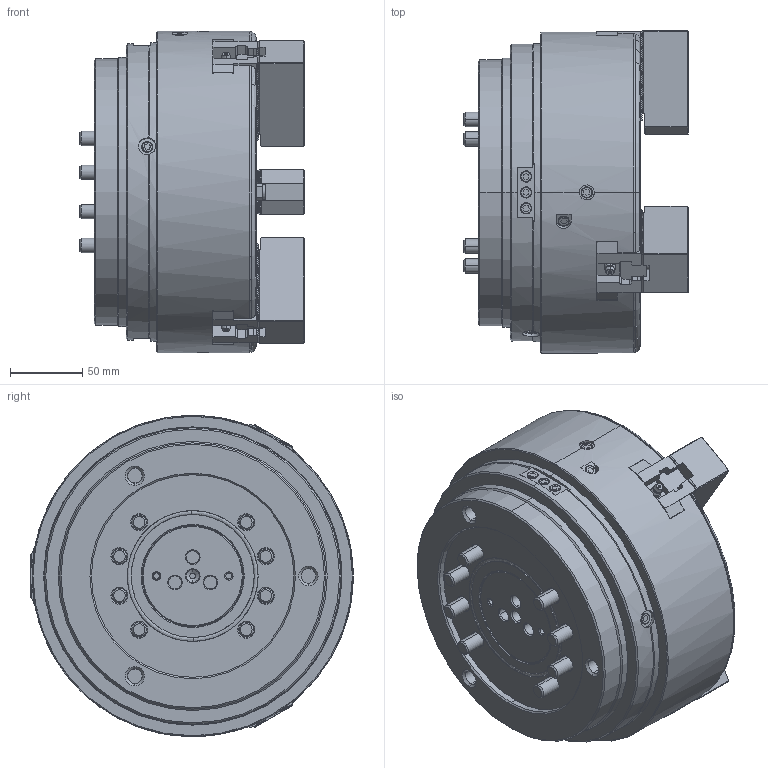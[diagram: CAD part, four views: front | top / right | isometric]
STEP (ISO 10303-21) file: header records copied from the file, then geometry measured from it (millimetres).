
FILE_DESCRIPTION (( 'STEP AP214' ), '1' );
FILE_NAME ('HRS08_UC.STEP', '2023-09-06T05:32:14', ( '' ), ( '' ), 'SwSTEP 2.0', 'SolidWorks 2022', '' );
FILE_SCHEMA (( 'AUTOMOTIVE_DESIGN' ));
Length unit declared in the file: millimetre
Products named in the file (5): HRS08_結合; HRS08_UC; HRS08_dummyjaw_グレー; 61P447483; 0030110025
Assembly tree (13 placements, depth 2):
  HRS08_UC
    HRS08_dummyjaw_グレー  x3
    61P447483  x3
    0030110025  x6
    HRS08_結合
Bounding box: 155 x 222.95 x 222 mm (x, y, z)
Volume: 3966658 mm3; surface area: 289519 mm2
Topology: 13 solids, 33 shells, 4391 faces, 12012 edges, 7759 vertices
Faces by surface type: plane 2634, cylinder 965, cone 541, bspline 161, torus 84, sphere 6
Entity records: 113292 total; most frequent: CARTESIAN_POINT 30075, ORIENTED_EDGE 17956, DIRECTION 15778, EDGE_CURVE 8978, LINE 6236, VECTOR 6236, VERTEX_POINT 5832, AXIS2_PLACEMENT_3D 4771
